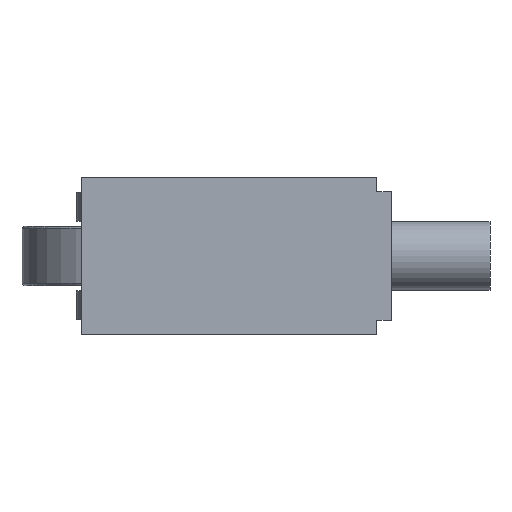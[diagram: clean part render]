
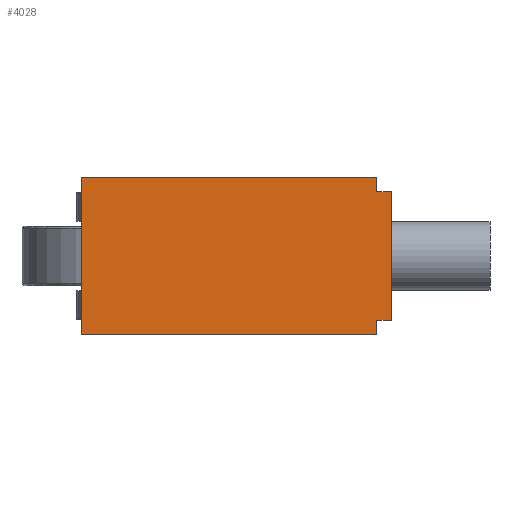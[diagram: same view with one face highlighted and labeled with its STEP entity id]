
A CAD part, front view. The second image highlights one B-rep face of the part: STEP entity #4028.
In plain terms, the highlighted planar face has unit normal (0, -1, 0) as drawn and (0, 0, -1) by its records, which use the part's own axes.
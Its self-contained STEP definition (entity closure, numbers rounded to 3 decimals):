
#402=FACE_OUTER_BOUND('',#629,.T.);
#629=EDGE_LOOP('',(#3456,#3457,#3458,#3459,#3460,#3461,#3462,#3463));
#985=LINE('',#6315,#1419);
#989=LINE('',#6326,#1423);
#997=LINE('',#6341,#1431);
#1029=LINE('',#6444,#1463);
#1045=LINE('',#6489,#1479);
#1061=LINE('',#6522,#1495);
#1064=LINE('',#6527,#1498);
#1065=LINE('',#6529,#1499);
#1419=VECTOR('',#5149,13.);
#1423=VECTOR('',#5157,1.5);
#1431=VECTOR('',#5165,1.5);
#1463=VECTOR('',#5269,30.);
#1479=VECTOR('',#5313,16.);
#1495=VECTOR('',#5351,30.);
#1498=VECTOR('',#5358,1.5);
#1499=VECTOR('',#5361,1.5);
#1794=VERTEX_POINT('',#6312);
#1795=VERTEX_POINT('',#6314);
#1797=VERTEX_POINT('',#6319);
#1799=VERTEX_POINT('',#6323);
#1800=VERTEX_POINT('',#6325);
#1807=VERTEX_POINT('',#6339);
#1842=VERTEX_POINT('',#6442);
#1857=VERTEX_POINT('',#6487);
#2293=EDGE_CURVE('',#1795,#1794,#985,.T.);
#2298=EDGE_CURVE('',#1800,#1799,#989,.T.);
#2306=EDGE_CURVE('',#1797,#1807,#997,.T.);
#2355=EDGE_CURVE('',#1807,#1842,#1029,.T.);
#2377=EDGE_CURVE('',#1857,#1842,#1045,.T.);
#2394=EDGE_CURVE('',#1857,#1800,#1061,.T.);
#2397=EDGE_CURVE('',#1799,#1795,#1064,.T.);
#2398=EDGE_CURVE('',#1797,#1794,#1065,.T.);
#3456=ORIENTED_EDGE('',*,*,#2293,.T.);
#3457=ORIENTED_EDGE('',*,*,#2398,.F.);
#3458=ORIENTED_EDGE('',*,*,#2306,.T.);
#3459=ORIENTED_EDGE('',*,*,#2355,.T.);
#3460=ORIENTED_EDGE('',*,*,#2377,.F.);
#3461=ORIENTED_EDGE('',*,*,#2394,.T.);
#3462=ORIENTED_EDGE('',*,*,#2298,.T.);
#3463=ORIENTED_EDGE('',*,*,#2397,.T.);
#3619=PLANE('',#4331);
#4028=ADVANCED_FACE('',(#402),#3619,.T.);
#4331=AXIS2_PLACEMENT_3D('',#6528,#5359,#5360);
#5149=DIRECTION('',(0.,-1.,0.));
#5157=DIRECTION('',(0.,-1.,0.));
#5165=DIRECTION('',(0.,-1.,0.));
#5269=DIRECTION('',(-1.,0.,0.));
#5313=DIRECTION('',(0.,-1.,0.));
#5351=DIRECTION('',(1.,0.,0.));
#5358=DIRECTION('',(1.,0.,0.));
#5359=DIRECTION('center_axis',(0.,0.,-1.));
#5360=DIRECTION('ref_axis',(-1.,0.,0.));
#5361=DIRECTION('',(1.,0.,0.));
#6312=CARTESIAN_POINT('',(16.5,-14.5,-40.));
#6314=CARTESIAN_POINT('',(16.5,-1.5,-40.));
#6315=CARTESIAN_POINT('',(16.5,-1.5,-40.));
#6319=CARTESIAN_POINT('',(15.,-14.5,-40.));
#6323=CARTESIAN_POINT('',(15.,-1.5,-40.));
#6325=CARTESIAN_POINT('',(15.,0.,-40.));
#6326=CARTESIAN_POINT('',(15.,0.,-40.));
#6339=CARTESIAN_POINT('',(15.,-16.,-40.));
#6341=CARTESIAN_POINT('',(15.,-14.5,-40.));
#6442=CARTESIAN_POINT('',(-15.,-16.,-40.));
#6444=CARTESIAN_POINT('',(15.,-16.,-40.));
#6487=CARTESIAN_POINT('',(-15.,0.,-40.));
#6489=CARTESIAN_POINT('',(-15.,0.,-40.));
#6522=CARTESIAN_POINT('',(-15.,0.,-40.));
#6527=CARTESIAN_POINT('',(15.,-1.5,-40.));
#6528=CARTESIAN_POINT('Origin',(15.,-1.5,-40.));
#6529=CARTESIAN_POINT('',(15.,-14.5,-40.));
